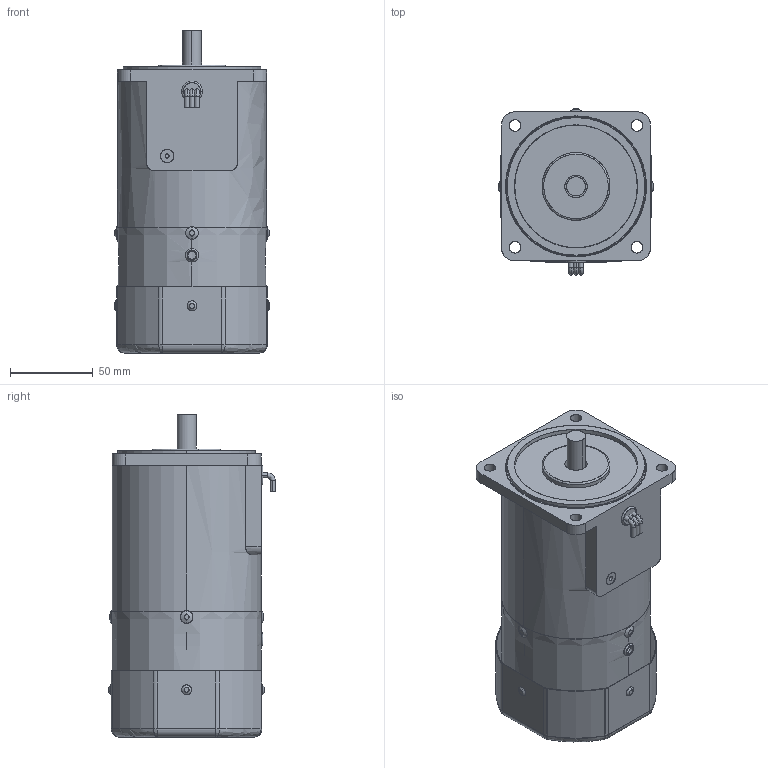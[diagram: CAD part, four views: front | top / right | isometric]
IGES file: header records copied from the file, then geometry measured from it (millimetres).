
Start section: SolidWorks IGES file using analytic representation for surfaces
Bounding box: 94 x 100.5 x 194.5 mm (x, y, z)
Surface area: 170568.9 mm2 (no closed solid volume)
Topology: 0 solids, 0 shells, 278 faces, 5986 edges, 5970 vertices
Faces by surface type: revolution 156, bspline 122
